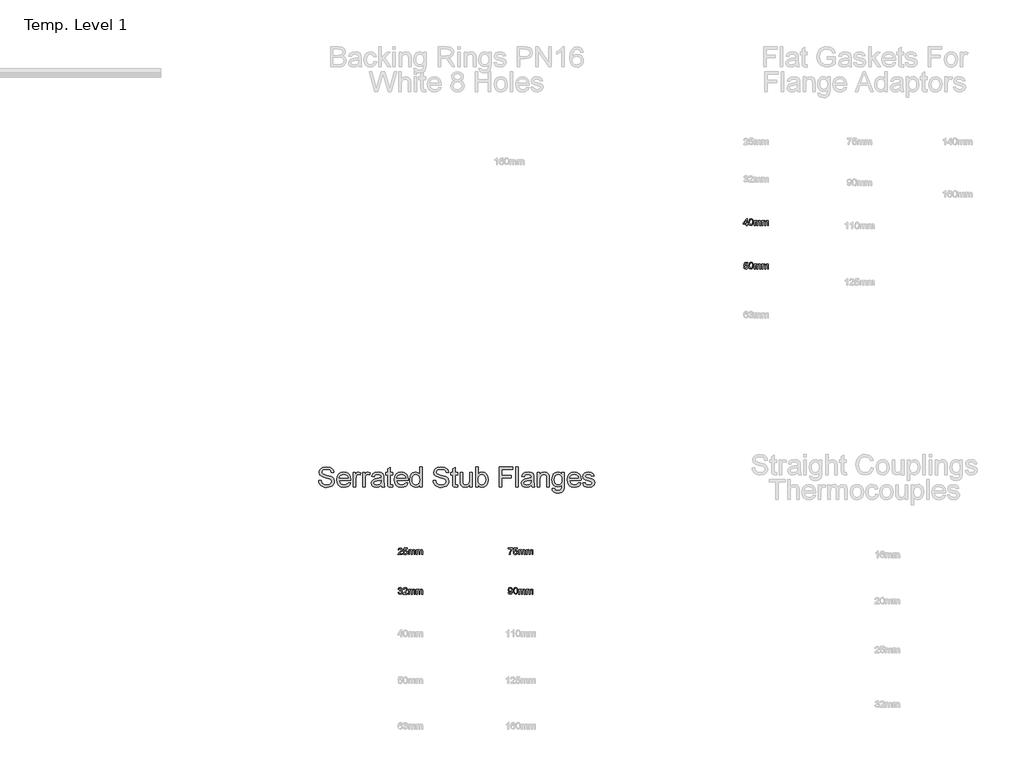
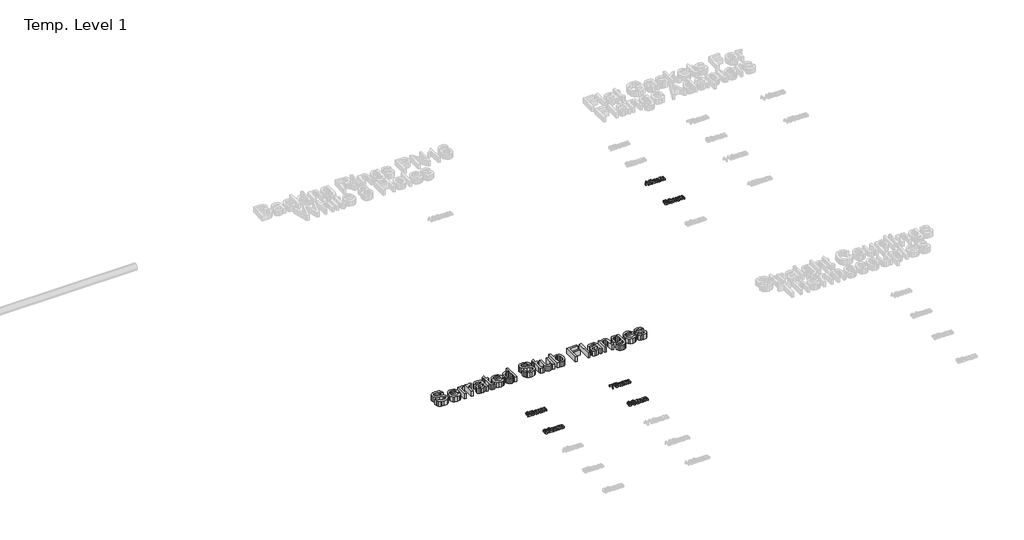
# One storey, part 2 of 62: 7 proxies.
"""IFC4 building model written with IfcOpenShell, lengths in millimetres."""

from ifc_helpers import new_model, si_unit, origin, origin_with_axes, place, context, project, spatial, polyline, outline, extrude, element, save

model = new_model("IFC4")

# Units and contexts
model_context = context("Model", 3, world=origin())
ifc_project = project(units=[si_unit("LENGTHUNIT", "METRE", prefix="MILLI")], contexts=[model_context])

# Site, building, storey
site = spatial("IfcSite", under=ifc_project)
building = spatial("IfcBuilding", under=site)
storey = spatial("IfcBuildingStorey", under=building, Name="Temp. Level 1", Elevation=0.0)

# Proxies
placement = place(None, origin())
element("IfcBuildingElementProxy", 1, Name="150mm Arial", ObjectType="150mm Arial", at=placement, inside=storey, context=model_context, shape_type="SweptSolid", body=[
    extrude(outline(polyline([(8404.9637904, -10019.4292862), (8423.4253288, -10019.4292862), (8429.3748481, -10037.9088536), (8443.9060981, -10049.5915459), (8466.0455212, -10054.0446709), (8485.3363865, -10050.6732766), (8497.7943192, -10041.4064497), (8501.8868673, -10029.0206324), (8498.8219635, -10017.5001997), (8486.2738865, -10009.1167862), (8459.3928769, -10002.0675074), (8430.4565788, -9992.9629401), (8414.7534538, -9979.2249593), (8409.579175, -9960.8715939), (8411.1792351, -9950.0587935), (8415.9794154, -9939.9761612), (8423.8535139, -9931.4304882), (8434.6753288, -9925.2285651), (8462.0431173, -9920.198517), (8491.2498481, -9925.4629401), (8502.4457615, -9931.9623391), (8510.7210019, -9940.9316901), (8515.9583817, -9951.8120987), (8518.0407135, -9964.0446709), (8499.579175, -9964.0446709), (8496.1897519, -9953.0290459), (8489.1224442, -9945.0783247), (8478.079776, -9940.2646228), (8462.7642712, -9938.6600555), (8447.0881894, -9940.2465939), (8436.3339827, -9945.0062093), (8430.1140308, -9952.0104161), (8428.0407135, -9960.3307286), (8429.5100644, -9967.4250795), (8433.9181173, -9973.1312093), (8464.0623481, -9983.4437093), (8496.7306173, -9992.7105362), (8507.2549563, -9999.4082526), (8514.5972038, -10007.6744786), (8520.3484058, -10028.5518824), (8518.6942591, -10039.9325915), (8513.7318192, -10050.6372189), (8505.6639106, -10059.8499593), (8494.6933577, -10066.7550074), (8466.766675, -10072.5062093), (8448.6792351, -10070.9557286), (8433.7919154, -10066.3042862), (8421.9334418, -10058.5338536), (8412.9325404, -10047.6264016), (8407.1542952, -10034.339142), (8404.9637904, -10019.4292862)])), origin_with_axes(), (0.0, 0.0, 1.0), 50.0),
    extrude(outline(polyline([(8621.6705212, -10037.8908247), (8639.7714827, -10040.198517), (8633.2495476, -10053.8373391), (8622.8423962, -10064.0326516), (8608.7844034, -10070.3878199), (8591.3099442, -10072.5062093), (8569.6482856, -10068.8508608), (8552.9806173, -10057.8848151), (8542.3526125, -10040.3202117), (8538.8099442, -10016.8691901), (8542.3886702, -9992.6294064), (8553.1248481, -9974.5014016), (8569.5671558, -9963.1973151), (8590.2642712, -9959.4292862), (8610.3168553, -9963.1883007), (8626.3399923, -9974.4653439), (8636.8463024, -9992.5572911), (8640.3484058, -10016.761017), (8640.2402327, -10021.7369786), (8557.2714827, -10021.7369786), (8560.4670957, -10035.5560891), (8567.8904731, -10045.7153439), (8578.6041149, -10051.9623391), (8591.6705212, -10054.0446709), (8609.7714827, -10050.1864978), (8621.6705212, -10037.8908247)]), holes=[polyline([(8557.2714827, -10003.2754401), (8621.8868673, -10003.2754401), (8619.3898721, -9993.5218343), (8614.4950404, -9986.5446709), (8603.7318192, -9980.0542862), (8590.1921558, -9977.8908247), (8577.7477447, -9979.6170867), (8567.4577808, -9984.7958728), (8560.3048361, -9992.8682887), (8557.2714827, -10003.2754401)])]), origin_with_axes(), (0.0, 0.0, 1.0), 50.0),
    extrude(outline(polyline([(8658.8099442, -10070.198517), (8658.8099442, -9961.7369786), (8674.9637904, -9961.7369786), (8674.9637904, -9977.7826516), (8686.4301365, -9962.9989978), (8697.9685981, -9959.4292862), (8716.5022519, -9965.1264016), (8710.3363865, -9981.6768824), (8697.3556173, -9977.8908247), (8686.9169154, -9981.5326516), (8680.2642712, -9991.6288055), (8677.2714827, -10013.1913055), (8677.2714827, -10070.198517), (8658.8099442, -10070.198517)])), origin_with_axes(), (0.0, 0.0, 1.0), 50.0),
    extrude(outline(polyline([(8728.0407135, -10070.198517), (8728.0407135, -9961.7369786), (8744.1945596, -9961.7369786), (8744.1945596, -9977.7826516), (8755.6609058, -9962.9989978), (8767.1993673, -9959.4292862), (8785.7330212, -9965.1264016), (8779.5671558, -9981.6768824), (8766.5863865, -9977.8908247), (8756.1476846, -9981.5326516), (8749.4950404, -9991.6288055), (8746.5022519, -10013.1913055), (8746.5022519, -10070.198517), (8728.0407135, -10070.198517)])), origin_with_axes(), (0.0, 0.0, 1.0), 50.0),
    extrude(outline(polyline([(8866.5022519, -10056.3523632), (8848.5996077, -10068.8643824), (8828.8219635, -10072.5062093), (8813.3937784, -10070.3157045), (8802.0130692, -10063.7441901), (8794.9953409, -10053.7652237), (8792.6560981, -10041.3523632), (8796.1897519, -10026.7489978), (8805.4746077, -10016.1480362), (8818.4012904, -10010.0903439), (8834.3748481, -10007.3139016), (8866.3940788, -10000.9677478), (8866.5022519, -9996.8571709), (8865.2312183, -9988.6179882), (8861.4181173, -9983.2273632), (8852.8904731, -9979.2249593), (8841.0094635, -9977.8908247), (8822.3315788, -9981.4425074), (8813.4253288, -9994.0446709), (8794.9637904, -9991.7369786), (8802.9505692, -9973.7081324), (8819.0323, -9963.1432286), (8843.3892712, -9959.4292862), (8865.7630692, -9962.7105362), (8878.4012904, -9970.9497189), (8884.0623481, -9983.479767), (8884.9637904, -9999.6336132), (8884.9637904, -10022.6023632), (8885.9012904, -10054.6756805), (8889.579175, -10070.198517), (8871.1176365, -10070.198517), (8866.5022519, -10056.3523632)]), holes=[polyline([(8866.5022519, -10019.4292862), (8836.7185981, -10025.0903439), (8820.8351846, -10028.0831324), (8813.641675, -10032.9509209), (8811.1176365, -10040.0542862), (8816.6164346, -10050.042267), (8832.7522519, -10054.0446709), (8851.4301365, -10049.6276036), (8863.4734058, -10038.9364978), (8866.3940788, -10024.6576516), (8866.5022519, -10019.4292862)])]), origin_with_axes(), (0.0, 0.0, 1.0), 50.0),
    extrude(outline(polyline([(8949.579175, -10054.8018824), (8951.8868673, -10070.7393824), (8938.0767712, -10072.5062093), (8922.6080212, -10069.4413055), (8914.891675, -10061.4004401), (8912.6560981, -10040.4509209), (8912.6560981, -9980.198517), (8898.8099442, -9980.198517), (8898.8099442, -9961.7369786), (8912.6560981, -9961.7369786), (8912.6560981, -9935.3788055), (8931.1176365, -9924.5254401), (8931.1176365, -9961.7369786), (8949.579175, -9961.7369786), (8949.579175, -9980.198517), (8931.1176365, -9980.198517), (8931.1176365, -10039.9100555), (8932.0911942, -10049.4292862), (8935.2462423, -10052.8006805), (8941.5383096, -10054.0446709), (8949.579175, -10054.8018824)])), origin_with_axes(), (0.0, 0.0, 1.0), 50.0),
    extrude(outline(polyline([(9043.9782135, -10037.8908247), (9062.079175, -10040.198517), (9055.5572399, -10053.8373391), (9045.1500885, -10064.0326516), (9031.0920957, -10070.3878199), (9013.6176365, -10072.5062093), (8991.9559779, -10068.8508608), (8975.2883096, -10057.8848151), (8964.6603048, -10040.3202117), (8961.1176365, -10016.8691901), (8964.6963625, -9992.6294064), (8975.4325404, -9974.5014016), (8991.8748481, -9963.1973151), (9012.5719635, -9959.4292862), (9032.6245476, -9963.1883007), (9048.6476846, -9974.4653439), (9059.1539947, -9992.5572911), (9062.6560981, -10016.761017), (9062.547925, -10021.7369786), (8979.579175, -10021.7369786), (8982.774788, -10035.5560891), (8990.1981654, -10045.7153439), (9000.9118072, -10051.9623391), (9013.9782135, -10054.0446709), (9032.079175, -10050.1864978), (9043.9782135, -10037.8908247)]), holes=[polyline([(8979.579175, -10003.2754401), (9044.1945596, -10003.2754401), (9041.6975644, -9993.5218343), (9036.8027327, -9986.5446709), (9026.0395115, -9980.0542862), (9012.4998481, -9977.8908247), (9000.055437, -9979.6170867), (8989.7654731, -9984.7958728), (8982.6125284, -9992.8682887), (8979.579175, -10003.2754401)])]), origin_with_axes(), (0.0, 0.0, 1.0), 50.0),
    extrude(outline(polyline([(9148.0407135, -10070.198517), (9148.0407135, -10052.7826516), (9135.8261702, -10067.5753199), (9118.9421558, -10072.5062093), (9107.0070596, -10070.7213536), (9096.0815788, -10065.3667862), (9086.8327808, -10056.816606), (9079.9277327, -10045.4449112), (9075.6278529, -10031.7114377), (9074.1945596, -10016.0759209), (9079.4770115, -9986.6889016), (9086.0755692, -9975.0332526), (9095.3063385, -9966.4605362), (9106.4707014, -9961.1870987), (9118.8700404, -9959.4292862), (9135.8892712, -9964.4593343), (9148.0407135, -9977.5302478), (9148.0407135, -9922.5062093), (9166.5022519, -9922.5062093), (9166.5022519, -10070.198517), (9148.0407135, -10070.198517)]), holes=[polyline([(9092.6560981, -10016.0038055), (9094.7384298, -10032.7030242), (9100.985425, -10044.5795266), (9110.062949, -10051.6783848), (9120.6368673, -10054.0446709), (9131.2062784, -10051.7865579), (9140.0539346, -10045.0122189), (9146.0440188, -10033.5954521), (9148.0407135, -10017.4100555), (9146.0079611, -9999.714743), (9139.9097038, -9987.4461132), (9130.836687, -9980.2796468), (9119.8796558, -9977.8908247), (9109.1975644, -9980.1849954), (9100.4445596, -9987.0675074), (9094.6032135, -9998.8899233), (9092.6560981, -10016.0038055)])]), origin_with_axes(), (0.0, 0.0, 1.0), 50.0),
    extrude(outline(polyline([(9247.2714827, -10019.4292862), (9265.7330212, -10019.4292862), (9271.6825404, -10037.9088536), (9286.2137904, -10049.5915459), (9308.3532135, -10054.0446709), (9327.6440788, -10050.6732766), (9340.1020115, -10041.4064497), (9344.1945596, -10029.0206324), (9341.1296558, -10017.5001997), (9328.5815788, -10009.1167862), (9301.7005692, -10002.0675074), (9272.7642712, -9992.9629401), (9257.0611462, -9979.2249593), (9251.8868673, -9960.8715939), (9253.4869274, -9950.0587935), (9258.2871077, -9939.9761612), (9266.1612063, -9931.4304882), (9276.9830212, -9925.2285651), (9304.3508096, -9920.198517), (9333.5575404, -9925.4629401), (9344.7534538, -9931.9623391), (9353.0286942, -9940.9316901), (9358.266074, -9951.8120987), (9360.3484058, -9964.0446709), (9341.8868673, -9964.0446709), (9338.4974442, -9953.0290459), (9331.4301365, -9945.0783247), (9320.3874683, -9940.2646228), (9305.0719635, -9938.6600555), (9289.3958817, -9940.2465939), (9278.641675, -9945.0062093), (9272.4217231, -9952.0104161), (9270.3484058, -9960.3307286), (9271.8177567, -9967.4250795), (9276.2258096, -9973.1312093), (9306.3700404, -9983.4437093), (9339.0383096, -9992.7105362), (9349.5626486, -9999.4082526), (9356.9048962, -10007.6744786), (9362.6560981, -10028.5518824), (9361.0019514, -10039.9325915), (9356.0395115, -10050.6372189), (9347.9716029, -10059.8499593), (9337.00105, -10066.7550074), (9309.0743673, -10072.5062093), (9290.9869274, -10070.9557286), (9276.0996077, -10066.3042862), (9264.2411341, -10058.5338536), (9255.2402327, -10047.6264016), (9249.4619875, -10034.339142), (9247.2714827, -10019.4292862)])), origin_with_axes(), (0.0, 0.0, 1.0), 50.0),
    extrude(outline(polyline([(9427.2714827, -10054.8018824), (9429.579175, -10070.7393824), (9415.7690788, -10072.5062093), (9400.3003288, -10069.4413055), (9392.5839827, -10061.4004401), (9390.3484058, -10040.4509209), (9390.3484058, -9980.198517), (9376.5022519, -9980.198517), (9376.5022519, -9961.7369786), (9390.3484058, -9961.7369786), (9390.3484058, -9935.3788055), (9408.8099442, -9924.5254401), (9408.8099442, -9961.7369786), (9427.2714827, -9961.7369786), (9427.2714827, -9980.198517), (9408.8099442, -9980.198517), (9408.8099442, -10039.9100555), (9409.7835019, -10049.4292862), (9412.93855, -10052.8006805), (9419.2306173, -10054.0446709), (9427.2714827, -10054.8018824)])), origin_with_axes(), (0.0, 0.0, 1.0), 50.0),
    extrude(outline(polyline([(9514.9637904, -10070.198517), (9514.9637904, -10051.5566901), (9500.5046558, -10067.2688295), (9481.6464827, -10072.5062093), (9464.2847038, -10068.8283247), (9452.31355, -10059.5975555), (9446.8147519, -10046.0038055), (9445.7330212, -10028.8403439), (9445.7330212, -9961.7369786), (9464.1945596, -9961.7369786), (9464.1945596, -10020.1504401), (9465.3123481, -10038.9725555), (9472.6140308, -10050.0242382), (9486.3700404, -10054.0446709), (9501.7847038, -10049.9340939), (9511.9710019, -10038.7381805), (9514.9637904, -10018.167267), (9514.9637904, -9961.7369786), (9533.4253288, -9961.7369786), (9533.4253288, -10070.198517), (9514.9637904, -10070.198517)])), origin_with_axes(), (0.0, 0.0, 1.0), 50.0),
    extrude(outline(polyline([(9577.2714827, -10070.198517), (9558.8099442, -10070.198517), (9558.8099442, -9922.5062093), (9577.2714827, -9922.5062093), (9577.2714827, -9977.2778439), (9590.1981654, -9963.8914257), (9606.2618673, -9959.4292862), (9624.7594635, -9963.4497189), (9639.110425, -9974.7538055), (9647.9265308, -9992.3319305), (9651.1176365, -10014.3451516), (9647.8138505, -10038.9905843), (9637.9024923, -10057.3259209), (9623.3577207, -10068.7111372), (9606.1536942, -10072.5062093), (9589.7384298, -10067.6113776), (9577.2714827, -10052.9268824), (9577.2714827, -10070.198517)]), holes=[polyline([(9577.2714827, -10015.2105362), (9578.5335019, -10030.6071709), (9582.3195596, -10041.0278439), (9591.9920356, -10050.7904641), (9604.5671558, -10054.0446709), (9615.2222038, -10051.6468343), (9624.3267712, -10044.4533247), (9630.5737663, -10032.5092141), (9632.6560981, -10015.8595747), (9630.6594034, -9998.9665459), (9624.6693192, -9987.1576516), (9615.8487063, -9980.2075314), (9605.360425, -9977.8908247), (9594.7053769, -9980.2886612), (9585.6008096, -9987.4821709), (9579.3538144, -9999.2099353), (9577.2714827, -10015.2105362)])]), origin_with_axes(), (0.0, 0.0, 1.0), 50.0),
    extrude(outline(polyline([(9731.8868673, -10070.198517), (9731.8868673, -9922.5062093), (9831.1176365, -9922.5062093), (9831.1176365, -9940.9677478), (9750.3484058, -9940.9677478), (9750.3484058, -9984.8139016), (9819.579175, -9984.8139016), (9819.579175, -10003.2754401), (9750.3484058, -10003.2754401), (9750.3484058, -10070.198517), (9731.8868673, -10070.198517)])), origin_with_axes(), (0.0, 0.0, 1.0), 50.0),
    extrude(outline(polyline([(9854.1945596, -10070.198517), (9854.1945596, -9922.5062093), (9872.6560981, -9922.5062093), (9872.6560981, -10070.198517), (9854.1945596, -10070.198517)])), origin_with_axes(), (0.0, 0.0, 1.0), 50.0),
    extrude(outline(polyline([(9969.579175, -10056.3523632), (9951.6765308, -10068.8643824), (9931.8988865, -10072.5062093), (9916.4707014, -10070.3157045), (9905.0899923, -10063.7441901), (9898.0722639, -10053.7652237), (9895.7330212, -10041.3523632), (9899.266675, -10026.7489978), (9908.5515308, -10016.1480362), (9921.4782135, -10010.0903439), (9937.4517712, -10007.3139016), (9969.4710019, -10000.9677478), (9969.579175, -9996.8571709), (9968.3081413, -9988.6179882), (9964.4950404, -9983.2273632), (9955.9673962, -9979.2249593), (9944.0863865, -9977.8908247), (9925.4085019, -9981.4425074), (9916.5022519, -9994.0446709), (9898.0407135, -9991.7369786), (9906.0274923, -9973.7081324), (9922.1092231, -9963.1432286), (9946.4661942, -9959.4292862), (9968.8399923, -9962.7105362), (9981.4782135, -9970.9497189), (9987.1392712, -9983.479767), (9988.0407135, -9999.6336132), (9988.0407135, -10022.6023632), (9988.9782135, -10054.6756805), (9992.6560981, -10070.198517), (9974.1945596, -10070.198517), (9969.579175, -10056.3523632)]), holes=[polyline([(9969.579175, -10019.4292862), (9939.7955212, -10025.0903439), (9923.9121077, -10028.0831324), (9916.7185981, -10032.9509209), (9914.1945596, -10040.0542862), (9919.6933577, -10050.042267), (9935.829175, -10054.0446709), (9954.5070596, -10049.6276036), (9966.5503288, -10038.9364978), (9969.4710019, -10024.6576516), (9969.579175, -10019.4292862)])]), origin_with_axes(), (0.0, 0.0, 1.0), 50.0),
    extrude(outline(polyline([(10013.4253288, -10070.198517), (10013.4253288, -9961.7369786), (10031.8868673, -9961.7369786), (10031.8868673, -9976.8812093), (10046.0034538, -9963.792267), (10065.2762904, -9959.4292862), (10082.7101846, -9962.9449112), (10094.6092231, -9972.1756805), (10100.1440788, -9985.7514016), (10101.1176365, -10003.5999593), (10101.1176365, -10070.198517), (10082.6560981, -10070.198517), (10082.6560981, -10006.0879401), (10080.5286942, -9989.7538055), (10073.0106654, -9981.1179882), (10060.3363865, -9977.8908247), (10049.5235861, -9979.7027237), (10040.3063385, -9985.1384209), (10033.9917351, -9995.6402237), (10031.8868673, -10012.6504401), (10031.8868673, -10070.198517), (10013.4253288, -10070.198517)])), origin_with_axes(), (0.0, 0.0, 1.0), 50.0),
    extrude(outline(polyline([(10121.8868673, -10079.4292862), (10140.3484058, -10081.7369786), (10146.3339827, -10091.4725555), (10164.2546558, -10095.5831324), (10183.1488865, -10090.9316901), (10192.1633096, -10077.8788055), (10193.4253288, -10056.3523632), (10180.4265308, -10066.7369786), (10164.579175, -10070.198517), (10145.5452207, -10066.1690699), (10131.3520115, -10054.0807286), (10122.5223841, -10036.3583728), (10119.579175, -10015.4268824), (10124.8616269, -9986.8151036), (10131.3249683, -9975.2000194), (10140.1500885, -9966.5687093), (10151.0350043, -9961.214142), (10163.6777327, -9959.4292862), (10180.1470837, -9963.4677478), (10193.4253288, -9975.5831324), (10193.4253288, -9961.7369786), (10211.8868673, -9961.7369786), (10211.8868673, -10055.3788055), (10210.6248481, -10076.9998992), (10206.8387904, -10091.2381805), (10200.3168553, -10100.6807887), (10190.8472038, -10107.9148632), (10178.6371678, -10112.5122189), (10163.8940788, -10114.0446709), (10146.7170957, -10111.8857165), (10133.1909538, -10105.4088536), (10124.5145716, -10094.5960531), (10121.8868673, -10079.4292862)]), holes=[polyline([(10138.0407135, -10014.1648632), (10140.0103649, -10031.0984569), (10145.9193192, -10042.7405843), (10154.8030332, -10049.48788), (10165.6969635, -10051.7369786), (10176.5097639, -10049.5014016), (10185.43855, -10042.7946709), (10191.4286341, -10031.3012814), (10193.4253288, -10014.7057286), (10191.3700404, -9998.7006204), (10185.204175, -9987.1756805), (10176.1446798, -9980.2120387), (10165.4085019, -9977.8908247), (10154.8661341, -9980.175981), (10146.0274923, -9987.0314497), (10140.0374082, -9998.3851156), (10138.0407135, -10014.1648632)])]), origin_with_axes(), (0.0, 0.0, 1.0), 50.0),
    extrude(outline(polyline([(10315.516675, -10037.8908247), (10333.6176365, -10040.198517), (10327.0957014, -10053.8373391), (10316.68855, -10064.0326516), (10302.6305572, -10070.3878199), (10285.1560981, -10072.5062093), (10263.4944394, -10068.8508608), (10246.8267712, -10057.8848151), (10236.1987663, -10040.3202117), (10232.6560981, -10016.8691901), (10236.234824, -9992.6294064), (10246.9710019, -9974.5014016), (10263.4133096, -9963.1973151), (10284.110425, -9959.4292862), (10304.1630091, -9963.1883007), (10320.1861462, -9974.4653439), (10330.6924563, -9992.5572911), (10334.1945596, -10016.761017), (10334.0863865, -10021.7369786), (10251.1176365, -10021.7369786), (10254.3132495, -10035.5560891), (10261.7366269, -10045.7153439), (10272.4502688, -10051.9623391), (10285.516675, -10054.0446709), (10303.6176365, -10050.1864978), (10315.516675, -10037.8908247)]), holes=[polyline([(10251.1176365, -10003.2754401), (10315.7330212, -10003.2754401), (10313.236026, -9993.5218343), (10308.3411942, -9986.5446709), (10297.5779731, -9980.0542862), (10284.0383096, -9977.8908247), (10271.5938986, -9979.6170867), (10261.3039346, -9984.7958728), (10254.1509899, -9992.8682887), (10251.1176365, -10003.2754401)])]), origin_with_axes(), (0.0, 0.0, 1.0), 50.0),
    extrude(outline(polyline([(10345.7330212, -10037.8908247), (10364.1945596, -10035.5831324), (10367.1062183, -10043.479767), (10372.7402327, -10049.2850555), (10392.3195596, -10054.0446709), (10411.141675, -10049.6816901), (10417.2714827, -10039.4413055), (10411.1056173, -10031.1480362), (10392.1032135, -10025.8836132), (10364.3027327, -10016.8511612), (10352.1693192, -10006.3042862), (10348.0407135, -9991.4124593), (10351.3580212, -9977.6564497), (10360.4085019, -9967.1456324), (10372.1452808, -9961.682892), (10388.0286942, -9959.4292862), (10410.4926365, -9963.0530843), (10424.7714827, -9972.8607766), (10431.1176365, -9989.4292862), (10412.6560981, -9991.7369786), (10405.7149923, -9981.5506805), (10389.4710019, -9977.8908247), (10371.8027327, -9981.3884209), (10366.5022519, -9989.5374593), (10368.7017712, -9994.9100555), (10375.5887904, -9998.9845747), (10391.4902327, -10002.9148632), (10418.5875885, -10011.604767), (10431.1717231, -10021.448517), (10435.7330212, -10037.4941901), (10430.3784538, -10055.1624593), (10414.9277327, -10067.9809689), (10392.0671558, -10072.5062093), (10373.4523721, -10070.3247189), (10359.8676365, -10063.7802478), (10350.7991269, -10052.9449112), (10345.7330212, -10037.8908247)])), origin_with_axes(), (0.0, 0.0, 1.0), 50.0),
])
element("IfcBuildingElementProxy", 2, Name="50mm Arial", ObjectType="50mm Arial", at=placement, inside=storey, context=model_context, shape_type="SweptSolid", body=[
    extrude(outline(polyline([(11550.3245939, -8145.198517), (11550.3245939, -8133.6600555), (11528.0169016, -8133.6600555), (11528.0169016, -8127.5062093), (11551.8630554, -8096.7369786), (11556.4784401, -8096.7369786), (11556.4784401, -8127.5062093), (11562.6322862, -8127.5062093), (11562.6322862, -8133.6600555), (11556.4784401, -8133.6600555), (11556.4784401, -8145.198517), (11550.3245939, -8145.198517)]), holes=[polyline([(11550.3245939, -8127.5062093), (11550.3245939, -8108.4917862), (11535.589017, -8127.5062093), (11550.3245939, -8127.5062093)])]), origin_with_axes(), (0.0, 0.0, 1.0), 15.0),
    extrude(outline(polyline([(11568.0169016, -8120.979767), (11569.8257958, -8106.8151036), (11575.198392, -8098.6480362), (11584.1707477, -8095.9677478), (11591.3582477, -8097.5542862), (11596.3221901, -8102.1276036), (11599.2068054, -8109.4112574), (11600.3245939, -8120.979767), (11598.5337285, -8135.0843343), (11593.1791612, -8143.2694305), (11584.1707477, -8145.9677478), (11572.9207477, -8141.2802478), (11569.2428631, -8132.9539257), (11568.0169016, -8120.979767)]), holes=[polyline([(11574.1707477, -8120.9677478), (11577.0553631, -8136.2501997), (11584.1707477, -8139.8139016), (11591.2861324, -8136.2381805), (11594.1707477, -8120.9677478), (11591.3822862, -8105.8595747), (11584.0986324, -8102.1215939), (11577.151517, -8105.4148632), (11574.1707477, -8120.9677478)])]), origin_with_axes(), (0.0, 0.0, 1.0), 15.0),
    extrude(outline(polyline([(11607.2476708, -8145.198517), (11607.2476708, -8109.0446709), (11613.401517, -8109.0446709), (11613.401517, -8114.9941901), (11617.6322862, -8110.120392), (11623.6539208, -8108.2754401), (11629.8197862, -8110.1564497), (11633.2092093, -8115.4268824), (11638.010892, -8110.0633007), (11644.0745939, -8108.2754401), (11652.1214689, -8111.2501997), (11654.9399785, -8120.4148632), (11654.9399785, -8145.198517), (11648.7861324, -8145.198517), (11648.7861324, -8123.0590939), (11648.2152189, -8117.9208728), (11646.1479112, -8115.3908247), (11642.6322862, -8114.4292862), (11636.5806035, -8116.8932286), (11634.1707477, -8124.7898632), (11634.1707477, -8145.198517), (11628.0169016, -8145.198517), (11628.0169016, -8122.3739978), (11626.5926227, -8116.4124593), (11621.9231516, -8114.4292862), (11617.3678631, -8115.7514016), (11614.339017, -8119.6215939), (11613.401517, -8126.9653439), (11613.401517, -8145.198517), (11607.2476708, -8145.198517)])), origin_with_axes(), (0.0, 0.0, 1.0), 15.0),
    extrude(outline(polyline([(11664.1707477, -8145.198517), (11664.1707477, -8109.0446709), (11670.3245939, -8109.0446709), (11670.3245939, -8114.9941901), (11674.5553631, -8110.120392), (11680.5769977, -8108.2754401), (11686.7428631, -8110.1564497), (11690.1322862, -8115.4268824), (11694.9339689, -8110.0633007), (11700.9976708, -8108.2754401), (11709.0445458, -8111.2501997), (11711.8630554, -8120.4148632), (11711.8630554, -8145.198517), (11705.7092093, -8145.198517), (11705.7092093, -8123.0590939), (11705.1382958, -8117.9208728), (11703.0709881, -8115.3908247), (11699.5553631, -8114.4292862), (11693.5036804, -8116.8932286), (11691.0938247, -8124.7898632), (11691.0938247, -8145.198517), (11684.9399785, -8145.198517), (11684.9399785, -8122.3739978), (11683.5156997, -8116.4124593), (11678.8462285, -8114.4292862), (11674.2909401, -8115.7514016), (11671.2620939, -8119.6215939), (11670.3245939, -8126.9653439), (11670.3245939, -8145.198517), (11664.1707477, -8145.198517)])), origin_with_axes(), (0.0, 0.0, 1.0), 15.0),
])
element("IfcBuildingElementProxy", 3, Name="50mm Arial", ObjectType="50mm Arial", at=placement, inside=storey, context=model_context, shape_type="SweptSolid", body=[
    extrude(outline(polyline([(11530.3245939, -8452.1215939), (11536.4784401, -8451.3523632), (11539.5794016, -8457.6925074), (11546.0096901, -8459.8139016), (11553.7260362, -8456.8631805), (11556.4784401, -8449.0326516), (11553.9003151, -8441.7249593), (11546.1058439, -8439.0446709), (11540.7031997, -8440.1143824), (11537.2476708, -8442.8908247), (11531.0938247, -8442.1215939), (11536.4784401, -8416.7369786), (11560.3245939, -8416.7369786), (11560.3245939, -8422.8908247), (11541.4544016, -8422.8908247), (11538.8221901, -8436.448517), (11547.8245939, -8432.8908247), (11558.3474304, -8437.3018824), (11562.6322862, -8448.6480362), (11558.7741131, -8460.0663055), (11553.2332477, -8464.4923872), (11545.9856516, -8465.9677478), (11535.1262766, -8462.1756805), (11530.3245939, -8452.1215939)])), origin_with_axes(), (0.0, 0.0, 1.0), 15.0),
    extrude(outline(polyline([(11568.0169016, -8440.979767), (11569.8257958, -8426.8151036), (11575.198392, -8418.6480362), (11584.1707477, -8415.9677478), (11591.3582477, -8417.5542862), (11596.3221901, -8422.1276036), (11599.2068054, -8429.4112574), (11600.3245939, -8440.979767), (11598.5337285, -8455.0843343), (11593.1791612, -8463.2694305), (11584.1707477, -8465.9677478), (11572.9207477, -8461.2802478), (11569.2428631, -8452.9539257), (11568.0169016, -8440.979767)]), holes=[polyline([(11574.1707477, -8440.9677478), (11577.0553631, -8456.2501997), (11584.1707477, -8459.8139016), (11591.2861324, -8456.2381805), (11594.1707477, -8440.9677478), (11591.3822862, -8425.8595747), (11584.0986324, -8422.1215939), (11577.151517, -8425.4148632), (11574.1707477, -8440.9677478)])]), origin_with_axes(), (0.0, 0.0, 1.0), 15.0),
    extrude(outline(polyline([(11607.2476708, -8465.198517), (11607.2476708, -8429.0446709), (11613.401517, -8429.0446709), (11613.401517, -8434.9941901), (11617.6322862, -8430.120392), (11623.6539208, -8428.2754401), (11629.8197862, -8430.1564497), (11633.2092093, -8435.4268824), (11638.010892, -8430.0633007), (11644.0745939, -8428.2754401), (11652.1214689, -8431.2501997), (11654.9399785, -8440.4148632), (11654.9399785, -8465.198517), (11648.7861324, -8465.198517), (11648.7861324, -8443.0590939), (11648.2152189, -8437.9208728), (11646.1479112, -8435.3908247), (11642.6322862, -8434.4292862), (11636.5806035, -8436.8932286), (11634.1707477, -8444.7898632), (11634.1707477, -8465.198517), (11628.0169016, -8465.198517), (11628.0169016, -8442.3739978), (11626.5926227, -8436.4124593), (11621.9231516, -8434.4292862), (11617.3678631, -8435.7514016), (11614.339017, -8439.6215939), (11613.401517, -8446.9653439), (11613.401517, -8465.198517), (11607.2476708, -8465.198517)])), origin_with_axes(), (0.0, 0.0, 1.0), 15.0),
    extrude(outline(polyline([(11664.1707477, -8465.198517), (11664.1707477, -8429.0446709), (11670.3245939, -8429.0446709), (11670.3245939, -8434.9941901), (11674.5553631, -8430.120392), (11680.5769977, -8428.2754401), (11686.7428631, -8430.1564497), (11690.1322862, -8435.4268824), (11694.9339689, -8430.0633007), (11700.9976708, -8428.2754401), (11709.0445458, -8431.2501997), (11711.8630554, -8440.4148632), (11711.8630554, -8465.198517), (11705.7092093, -8465.198517), (11705.7092093, -8443.0590939), (11705.1382958, -8437.9208728), (11703.0709881, -8435.3908247), (11699.5553631, -8434.4292862), (11693.5036804, -8436.8932286), (11691.0938247, -8444.7898632), (11691.0938247, -8465.198517), (11684.9399785, -8465.198517), (11684.9399785, -8442.3739978), (11683.5156997, -8436.4124593), (11678.8462285, -8434.4292862), (11674.2909401, -8435.7514016), (11671.2620939, -8439.6215939), (11670.3245939, -8446.9653439), (11670.3245939, -8465.198517), (11664.1707477, -8465.198517)])), origin_with_axes(), (0.0, 0.0, 1.0), 15.0),
])
element("IfcBuildingElementProxy", 4, Name="50mm Arial", ObjectType="50mm Arial", at=placement, inside=storey, context=model_context, shape_type="SweptSolid", body=[
    extrude(outline(polyline([(9020.6509225, -10560.4089258), (9020.6509225, -10566.5627719), (8988.3432302, -10566.5627719), (8989.0042879, -10562.3199835), (8992.7422687, -10555.7875315), (9000.4465956, -10548.6541181), (9011.0715956, -10538.4017142), (9013.7278456, -10531.4305604), (9011.221836, -10525.7875315), (9004.6773649, -10523.4858488), (8997.8564514, -10525.733445), (8995.2663072, -10531.9473873), (8989.112461, -10531.1781565), (8993.8300091, -10520.8776758), (9004.8095764, -10517.3320027), (9015.8252014, -10521.2743104), (9019.8816918, -10531.0579642), (9018.7879418, -10536.8933008), (9015.1521245, -10542.9269546), (9006.3360187, -10551.358445), (8999.2566918, -10557.2779161), (8996.4802495, -10560.4089258), (9020.6509225, -10560.4089258)])), origin_with_axes(), (0.0, 0.0, 1.0), 15.0),
    extrude(outline(polyline([(9026.8047687, -10553.4858488), (9032.9586149, -10552.7166181), (9036.0595764, -10559.0567623), (9042.4898649, -10561.1781565), (9050.206211, -10558.2274354), (9052.9586149, -10550.3969065), (9050.3804899, -10543.0892142), (9042.5860187, -10540.4089258), (9037.1833745, -10541.4786373), (9033.7278456, -10544.2550796), (9027.5739995, -10543.4858488), (9032.9586149, -10518.1012335), (9056.8047687, -10518.1012335), (9056.8047687, -10524.2550796), (9037.9345764, -10524.2550796), (9035.3023649, -10537.8127719), (9044.3047687, -10534.2550796), (9054.8276052, -10538.6661373), (9059.112461, -10550.0122911), (9055.2542879, -10561.4305604), (9049.7134225, -10565.8566421), (9042.4658264, -10567.3320027), (9031.6064514, -10563.5399354), (9026.8047687, -10553.4858488)])), origin_with_axes(), (0.0, 0.0, 1.0), 15.0),
    extrude(outline(polyline([(9066.0355379, -10566.5627719), (9066.0355379, -10530.4089258), (9072.1893841, -10530.4089258), (9072.1893841, -10536.358445), (9076.4201533, -10531.4846469), (9082.4417879, -10529.639695), (9088.6076533, -10531.5207046), (9091.9970764, -10536.7911373), (9096.7987591, -10531.4275556), (9102.862461, -10529.639695), (9110.909336, -10532.6144546), (9113.7278456, -10541.7791181), (9113.7278456, -10566.5627719), (9107.5739995, -10566.5627719), (9107.5739995, -10544.4233488), (9107.003086, -10539.2851277), (9104.9357783, -10536.7550796), (9101.4201533, -10535.7935411), (9095.3684706, -10538.2574835), (9092.9586149, -10546.1541181), (9092.9586149, -10566.5627719), (9086.8047687, -10566.5627719), (9086.8047687, -10543.7382527), (9085.3804899, -10537.7767142), (9080.7110187, -10535.7935411), (9076.1557302, -10537.1156565), (9073.1268841, -10540.9858488), (9072.1893841, -10548.3295988), (9072.1893841, -10566.5627719), (9066.0355379, -10566.5627719)])), origin_with_axes(), (0.0, 0.0, 1.0), 15.0),
    extrude(outline(polyline([(9122.9586149, -10566.5627719), (9122.9586149, -10530.4089258), (9129.112461, -10530.4089258), (9129.112461, -10536.358445), (9133.3432302, -10531.4846469), (9139.3648649, -10529.639695), (9145.5307302, -10531.5207046), (9148.9201533, -10536.7911373), (9153.721836, -10531.4275556), (9159.7855379, -10529.639695), (9167.8324129, -10532.6144546), (9170.6509225, -10541.7791181), (9170.6509225, -10566.5627719), (9164.4970764, -10566.5627719), (9164.4970764, -10544.4233488), (9163.9261629, -10539.2851277), (9161.8588552, -10536.7550796), (9158.3432302, -10535.7935411), (9152.2915475, -10538.2574835), (9149.8816918, -10546.1541181), (9149.8816918, -10566.5627719), (9143.7278456, -10566.5627719), (9143.7278456, -10543.7382527), (9142.3035668, -10537.7767142), (9137.6340956, -10535.7935411), (9133.0788072, -10537.1156565), (9130.049961, -10540.9858488), (9129.112461, -10548.3295988), (9129.112461, -10566.5627719), (9122.9586149, -10566.5627719)])), origin_with_axes(), (0.0, 0.0, 1.0), 15.0),
])
element("IfcBuildingElementProxy", 5, Name="50mm Arial", ObjectType="50mm Arial", at=placement, inside=storey, context=model_context, shape_type="SweptSolid", body=[
    extrude(outline(polyline([(8989.112461, -10844.6215939), (8995.2663072, -10843.8523632), (8998.6617399, -10850.3307286), (9005.0139033, -10852.3139016), (9012.4898649, -10849.5855362), (9015.2663072, -10842.8307286), (9012.5139033, -10836.4665459), (9005.518711, -10833.948517), (9001.2038072, -10834.6215939), (9001.8889033, -10828.4677478), (9009.8576533, -10826.7730362), (9012.9586149, -10821.3403439), (9010.7110187, -10816.526642), (9004.9177495, -10814.6215939), (8999.0523649, -10816.5446709), (8996.0355379, -10822.3139016), (8989.8816918, -10821.5446709), (8994.9177495, -10811.8932286), (9004.7014033, -10808.4677478), (9012.1232783, -10810.1564497), (9017.315586, -10814.7718343), (9019.112461, -10820.979767), (9017.4057302, -10826.6528439), (9012.3576533, -10830.7273632), (9019.0643841, -10834.9340939), (9021.4201533, -10842.9389016), (9016.7086149, -10853.948517), (9004.7975572, -10858.4677478), (8994.0042879, -10854.6095747), (8989.112461, -10844.6215939)])), origin_with_axes(), (0.0, 0.0, 1.0), 15.0),
    extrude(outline(polyline([(9058.3432302, -10851.5446709), (9058.3432302, -10857.698517), (9026.0355379, -10857.698517), (9026.6965956, -10853.4557286), (9030.4345764, -10846.9232766), (9038.1389033, -10839.7898632), (9048.7639033, -10829.5374593), (9051.4201533, -10822.5663055), (9048.9141437, -10816.9232766), (9042.3696725, -10814.6215939), (9035.5487591, -10816.8691901), (9032.9586149, -10823.0831324), (9026.8047687, -10822.3139016), (9031.5223168, -10812.0134209), (9042.5018841, -10808.4677478), (9053.5175091, -10812.4100555), (9057.5739995, -10822.1937093), (9056.4802495, -10828.0290459), (9052.8444322, -10834.0626997), (9044.0283264, -10842.4941901), (9036.9489995, -10848.4136612), (9034.1725572, -10851.5446709), (9058.3432302, -10851.5446709)])), origin_with_axes(), (0.0, 0.0, 1.0), 15.0),
    extrude(outline(polyline([(9066.0355379, -10857.698517), (9066.0355379, -10821.5446709), (9072.1893841, -10821.5446709), (9072.1893841, -10827.4941901), (9076.4201533, -10822.620392), (9082.4417879, -10820.7754401), (9088.6076533, -10822.6564497), (9091.9970764, -10827.9268824), (9096.7987591, -10822.5633007), (9102.862461, -10820.7754401), (9110.909336, -10823.7501997), (9113.7278456, -10832.9148632), (9113.7278456, -10857.698517), (9107.5739995, -10857.698517), (9107.5739995, -10835.5590939), (9107.003086, -10830.4208728), (9104.9357783, -10827.8908247), (9101.4201533, -10826.9292862), (9095.3684706, -10829.3932286), (9092.9586149, -10837.2898632), (9092.9586149, -10857.698517), (9086.8047687, -10857.698517), (9086.8047687, -10834.8739978), (9085.3804899, -10828.9124593), (9080.7110187, -10826.9292862), (9076.1557302, -10828.2514016), (9073.1268841, -10832.1215939), (9072.1893841, -10839.4653439), (9072.1893841, -10857.698517), (9066.0355379, -10857.698517)])), origin_with_axes(), (0.0, 0.0, 1.0), 15.0),
    extrude(outline(polyline([(9122.9586149, -10857.698517), (9122.9586149, -10821.5446709), (9129.112461, -10821.5446709), (9129.112461, -10827.4941901), (9133.3432302, -10822.620392), (9139.3648649, -10820.7754401), (9145.5307302, -10822.6564497), (9148.9201533, -10827.9268824), (9153.721836, -10822.5633007), (9159.7855379, -10820.7754401), (9167.8324129, -10823.7501997), (9170.6509225, -10832.9148632), (9170.6509225, -10857.698517), (9164.4970764, -10857.698517), (9164.4970764, -10835.5590939), (9163.9261629, -10830.4208728), (9161.8588552, -10827.8908247), (9158.3432302, -10826.9292862), (9152.2915475, -10829.3932286), (9149.8816918, -10837.2898632), (9149.8816918, -10857.698517), (9143.7278456, -10857.698517), (9143.7278456, -10834.8739978), (9142.3035668, -10828.9124593), (9137.6340956, -10826.9292862), (9133.0788072, -10828.2514016), (9130.049961, -10832.1215939), (9129.112461, -10839.4653439), (9129.112461, -10857.698517), (9122.9586149, -10857.698517)])), origin_with_axes(), (0.0, 0.0, 1.0), 15.0),
])
element("IfcBuildingElementProxy", 6, Name="50mm Arial", ObjectType="50mm Arial", at=placement, inside=storey, context=model_context, shape_type="SweptSolid", body=[
    extrude(outline(polyline([(9799.112461, -10524.2550796), (9799.112461, -10518.1012335), (9831.4201533, -10518.1012335), (9831.4201533, -10523.077195), (9822.2554899, -10536.3163777), (9815.2422687, -10553.1853681), (9812.9586149, -10566.5627719), (9806.8047687, -10566.5627719), (9809.2506822, -10552.6805604), (9815.9634225, -10536.9894546), (9825.2663072, -10524.2550796), (9799.112461, -10524.2550796)])), origin_with_axes(), (0.0, 0.0, 1.0), 15.0),
    extrude(outline(polyline([(9836.8047687, -10553.4858488), (9842.9586149, -10552.7166181), (9846.0595764, -10559.0567623), (9852.4898649, -10561.1781565), (9860.206211, -10558.2274354), (9862.9586149, -10550.3969065), (9860.3804899, -10543.0892142), (9852.5860187, -10540.4089258), (9847.1833745, -10541.4786373), (9843.7278456, -10544.2550796), (9837.5739995, -10543.4858488), (9842.9586149, -10518.1012335), (9866.8047687, -10518.1012335), (9866.8047687, -10524.2550796), (9847.9345764, -10524.2550796), (9845.3023649, -10537.8127719), (9854.3047687, -10534.2550796), (9864.8276052, -10538.6661373), (9869.112461, -10550.0122911), (9865.2542879, -10561.4305604), (9859.7134225, -10565.8566421), (9852.4658264, -10567.3320027), (9841.6064514, -10563.5399354), (9836.8047687, -10553.4858488)])), origin_with_axes(), (0.0, 0.0, 1.0), 15.0),
    extrude(outline(polyline([(9876.0355379, -10566.5627719), (9876.0355379, -10530.4089258), (9882.1893841, -10530.4089258), (9882.1893841, -10536.358445), (9886.4201533, -10531.4846469), (9892.4417879, -10529.639695), (9898.6076533, -10531.5207046), (9901.9970764, -10536.7911373), (9906.7987591, -10531.4275556), (9912.862461, -10529.639695), (9920.909336, -10532.6144546), (9923.7278456, -10541.7791181), (9923.7278456, -10566.5627719), (9917.5739995, -10566.5627719), (9917.5739995, -10544.4233488), (9917.003086, -10539.2851277), (9914.9357783, -10536.7550796), (9911.4201533, -10535.7935411), (9905.3684706, -10538.2574835), (9902.9586149, -10546.1541181), (9902.9586149, -10566.5627719), (9896.8047687, -10566.5627719), (9896.8047687, -10543.7382527), (9895.3804899, -10537.7767142), (9890.7110187, -10535.7935411), (9886.1557302, -10537.1156565), (9883.1268841, -10540.9858488), (9882.1893841, -10548.3295988), (9882.1893841, -10566.5627719), (9876.0355379, -10566.5627719)])), origin_with_axes(), (0.0, 0.0, 1.0), 15.0),
    extrude(outline(polyline([(9932.9586149, -10566.5627719), (9932.9586149, -10530.4089258), (9939.112461, -10530.4089258), (9939.112461, -10536.358445), (9943.3432302, -10531.4846469), (9949.3648649, -10529.639695), (9955.5307302, -10531.5207046), (9958.9201533, -10536.7911373), (9963.721836, -10531.4275556), (9969.7855379, -10529.639695), (9977.8324129, -10532.6144546), (9980.6509225, -10541.7791181), (9980.6509225, -10566.5627719), (9974.4970764, -10566.5627719), (9974.4970764, -10544.4233488), (9973.9261629, -10539.2851277), (9971.8588552, -10536.7550796), (9968.3432302, -10535.7935411), (9962.2915475, -10538.2574835), (9959.8816918, -10546.1541181), (9959.8816918, -10566.5627719), (9953.7278456, -10566.5627719), (9953.7278456, -10543.7382527), (9952.3035668, -10537.7767142), (9947.6340956, -10535.7935411), (9943.0788072, -10537.1156565), (9940.049961, -10540.9858488), (9939.112461, -10548.3295988), (9939.112461, -10566.5627719), (9932.9586149, -10566.5627719)])), origin_with_axes(), (0.0, 0.0, 1.0), 15.0),
])
element("IfcBuildingElementProxy", 7, Name="50mm Arial", ObjectType="50mm Arial", at=placement, inside=storey, context=model_context, shape_type="SweptSolid", body=[
    extrude(outline(polyline([(9799.8816918, -10845.3908247), (9806.0355379, -10844.6215939), (9808.799961, -10850.4929882), (9814.0403456, -10852.3139016), (9819.0223168, -10851.1420266), (9822.3997206, -10848.011017), (9824.4129418, -10842.6624593), (9825.3023649, -10835.5230362), (9820.3444322, -10838.9845747), (9813.5956341, -10840.7754401), (9803.3131822, -10836.4004401), (9799.112461, -10824.8739978), (9803.5175091, -10812.9749593), (9814.5571725, -10808.4677478), (9823.3252014, -10811.0398632), (9829.3588552, -10818.3715939), (9831.4201533, -10832.1456324), (9829.3648649, -10847.0915459), (9823.253086, -10855.5590939), (9813.7518841, -10858.4677478), (9804.2927495, -10855.0362574), (9799.8816918, -10845.3908247)]), holes=[polyline([(9825.2663072, -10824.729767), (9822.6100572, -10817.3499593), (9815.5547687, -10814.6215939), (9808.1509225, -10817.5602959), (9805.2663072, -10825.1744786), (9807.9946725, -10831.995392), (9815.3864995, -10834.6215939), (9822.4838552, -10831.995392), (9825.2663072, -10824.729767)])]), origin_with_axes(), (0.0, 0.0, 1.0), 15.0),
    extrude(outline(polyline([(9836.8047687, -10833.479767), (9838.6136629, -10819.3151036), (9843.9862591, -10811.1480362), (9852.9586149, -10808.4677478), (9860.1461149, -10810.0542862), (9865.1100572, -10814.6276036), (9867.9946725, -10821.9112574), (9869.112461, -10833.479767), (9867.3215956, -10847.5843343), (9861.9670283, -10855.7694305), (9852.9586149, -10858.4677478), (9841.7086149, -10853.7802478), (9838.0307302, -10845.4539257), (9836.8047687, -10833.479767)]), holes=[polyline([(9842.9586149, -10833.4677478), (9845.8432302, -10848.7501997), (9852.9586149, -10852.3139016), (9860.0739995, -10848.7381805), (9862.9586149, -10833.4677478), (9860.1701533, -10818.3595747), (9852.8864995, -10814.6215939), (9845.9393841, -10817.9148632), (9842.9586149, -10833.4677478)])]), origin_with_axes(), (0.0, 0.0, 1.0), 15.0),
    extrude(outline(polyline([(9876.0355379, -10857.698517), (9876.0355379, -10821.5446709), (9882.1893841, -10821.5446709), (9882.1893841, -10827.4941901), (9886.4201533, -10822.620392), (9892.4417879, -10820.7754401), (9898.6076533, -10822.6564497), (9901.9970764, -10827.9268824), (9906.7987591, -10822.5633007), (9912.862461, -10820.7754401), (9920.909336, -10823.7501997), (9923.7278456, -10832.9148632), (9923.7278456, -10857.698517), (9917.5739995, -10857.698517), (9917.5739995, -10835.5590939), (9917.003086, -10830.4208728), (9914.9357783, -10827.8908247), (9911.4201533, -10826.9292862), (9905.3684706, -10829.3932286), (9902.9586149, -10837.2898632), (9902.9586149, -10857.698517), (9896.8047687, -10857.698517), (9896.8047687, -10834.8739978), (9895.3804899, -10828.9124593), (9890.7110187, -10826.9292862), (9886.1557302, -10828.2514016), (9883.1268841, -10832.1215939), (9882.1893841, -10839.4653439), (9882.1893841, -10857.698517), (9876.0355379, -10857.698517)])), origin_with_axes(), (0.0, 0.0, 1.0), 15.0),
    extrude(outline(polyline([(9932.9586149, -10857.698517), (9932.9586149, -10821.5446709), (9939.112461, -10821.5446709), (9939.112461, -10827.4941901), (9943.3432302, -10822.620392), (9949.3648649, -10820.7754401), (9955.5307302, -10822.6564497), (9958.9201533, -10827.9268824), (9963.721836, -10822.5633007), (9969.7855379, -10820.7754401), (9977.8324129, -10823.7501997), (9980.6509225, -10832.9148632), (9980.6509225, -10857.698517), (9974.4970764, -10857.698517), (9974.4970764, -10835.5590939), (9973.9261629, -10830.4208728), (9971.8588552, -10827.8908247), (9968.3432302, -10826.9292862), (9962.2915475, -10829.3932286), (9959.8816918, -10837.2898632), (9959.8816918, -10857.698517), (9953.7278456, -10857.698517), (9953.7278456, -10834.8739978), (9952.3035668, -10828.9124593), (9947.6340956, -10826.9292862), (9943.0788072, -10828.2514016), (9940.049961, -10832.1215939), (9939.112461, -10839.4653439), (9939.112461, -10857.698517), (9932.9586149, -10857.698517)])), origin_with_axes(), (0.0, 0.0, 1.0), 15.0),
])

save(model, "model.ifc")
